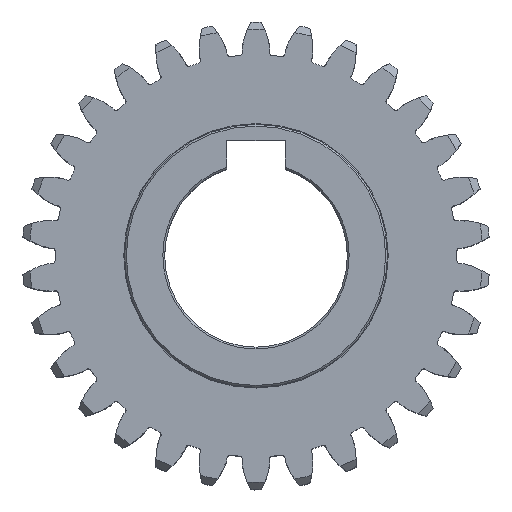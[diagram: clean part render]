
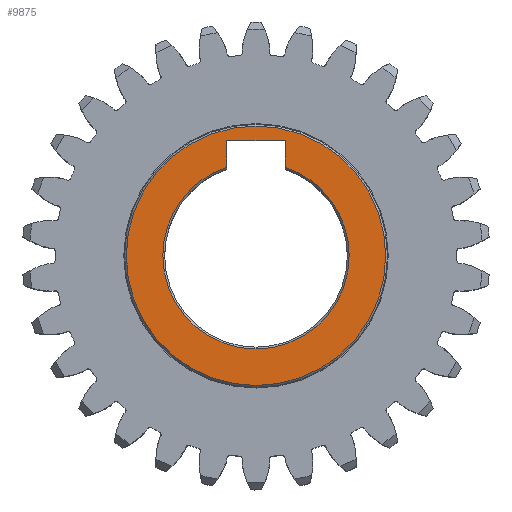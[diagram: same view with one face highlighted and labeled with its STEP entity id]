
A CAD part, top view. The second image highlights one B-rep face of the part: STEP entity #9875.
In plain terms, the highlighted planar face has unit normal (0, 0, 1).
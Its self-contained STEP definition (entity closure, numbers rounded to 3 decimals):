
#205 = VERTEX_POINT ( 'NONE', #1594 ) ;
#277 = AXIS2_PLACEMENT_3D ( 'NONE', #13567, #729, #6614 ) ;
#568 = CARTESIAN_POINT ( 'NONE',  ( 4., 9.2, 15. ) ) ;
#729 = DIRECTION ( 'NONE',  ( 0., 0., -1. ) ) ;
#865 = FACE_OUTER_BOUND ( 'NONE', #16452, .T. ) ;
#1410 = CARTESIAN_POINT ( 'NONE',  ( 12.75, 0., 15. ) ) ;
#1594 = CARTESIAN_POINT ( 'NONE',  ( 4., 12.106, 15. ) ) ;
#1815 = CARTESIAN_POINT ( 'NONE',  ( 0., 0., 15. ) ) ;
#1863 = EDGE_LOOP ( 'NONE', ( #7141, #8015, #3521, #9541, #15247, #16939 ) ) ;
#1932 = CARTESIAN_POINT ( 'NONE',  ( 0., 0., 15. ) ) ;
#2352 = DIRECTION ( 'NONE',  ( 0., 0., 1. ) ) ;
#2355 = DIRECTION ( 'NONE',  ( 0., 1., 0. ) ) ;
#2451 = CARTESIAN_POINT ( 'NONE',  ( -4., 9.2, 15. ) ) ;
#2458 = VECTOR ( 'NONE', #16412, 1000. ) ;
#2605 = CARTESIAN_POINT ( 'NONE',  ( -4., 15.8, 15. ) ) ;
#3521 = ORIENTED_EDGE ( 'NONE', *, *, #8604, .T. ) ;
#3584 = DIRECTION ( 'NONE',  ( 1., 0., 0. ) ) ;
#4006 = CIRCLE ( 'NONE', #17188, 12.75 ) ;
#4506 = AXIS2_PLACEMENT_3D ( 'NONE', #1932, #7642, #17690 ) ;
#4614 = CARTESIAN_POINT ( 'NONE',  ( 0., 0., 15. ) ) ;
#5068 = CIRCLE ( 'NONE', #277, 12.75 ) ;
#5140 = DIRECTION ( 'NONE',  ( 1., 0., 0. ) ) ;
#5152 = LINE ( 'NONE', #568, #2458 ) ;
#5311 = ORIENTED_EDGE ( 'NONE', *, *, #6176, .T. ) ;
#5557 = CARTESIAN_POINT ( 'NONE',  ( 0., 0., 15. ) ) ;
#6176 = EDGE_CURVE ( 'NONE', #12934, #8127, #6397, .T. ) ;
#6183 = ORIENTED_EDGE ( 'NONE', *, *, #11858, .T. ) ;
#6397 = CIRCLE ( 'NONE', #12701, 17.75 ) ;
#6614 = DIRECTION ( 'NONE',  ( 1., 0., 0. ) ) ;
#7062 = VERTEX_POINT ( 'NONE', #17201 ) ;
#7141 = ORIENTED_EDGE ( 'NONE', *, *, #13984, .T. ) ;
#7435 = DIRECTION ( 'NONE',  ( 1., 0., 0. ) ) ;
#7642 = DIRECTION ( 'NONE',  ( 0., 0., -1. ) ) ;
#7799 = DIRECTION ( 'NONE',  ( 0., 0., 1. ) ) ;
#7884 = CARTESIAN_POINT ( 'NONE',  ( 4., 15.8, 15. ) ) ;
#8015 = ORIENTED_EDGE ( 'NONE', *, *, #17141, .T. ) ;
#8109 = VERTEX_POINT ( 'NONE', #1410 ) ;
#8113 = VECTOR ( 'NONE', #3584, 1000. ) ;
#8127 = VERTEX_POINT ( 'NONE', #16979 ) ;
#8241 = CARTESIAN_POINT ( 'NONE',  ( 0., 0., 15. ) ) ;
#8604 = EDGE_CURVE ( 'NONE', #8109, #9948, #12308, .T. ) ;
#8922 = DIRECTION ( 'NONE',  ( 0., 0., -1. ) ) ;
#9495 = FACE_BOUND ( 'NONE', #1863, .T. ) ;
#9541 = ORIENTED_EDGE ( 'NONE', *, *, #18464, .T. ) ;
#9735 = EDGE_CURVE ( 'NONE', #17326, #9762, #13622, .T. ) ;
#9762 = VERTEX_POINT ( 'NONE', #17943 ) ;
#9875 = ADVANCED_FACE ( 'NONE', ( #865, #9495 ), #15210, .T. ) ;
#9948 = VERTEX_POINT ( 'NONE', #12601 ) ;
#10965 = EDGE_CURVE ( 'NONE', #7062, #17326, #18143, .T. ) ;
#11815 = VECTOR ( 'NONE', #2355, 1000. ) ;
#11835 = AXIS2_PLACEMENT_3D ( 'NONE', #8241, #18285, #5140 ) ;
#11858 = EDGE_CURVE ( 'NONE', #8127, #12934, #13019, .T. ) ;
#12308 = CIRCLE ( 'NONE', #4506, 12.75 ) ;
#12601 = CARTESIAN_POINT ( 'NONE',  ( -12.75, 0., 15. ) ) ;
#12701 = AXIS2_PLACEMENT_3D ( 'NONE', #1815, #7799, #7435 ) ;
#12934 = VERTEX_POINT ( 'NONE', #16217 ) ;
#13019 = CIRCLE ( 'NONE', #11835, 17.75 ) ;
#13567 = CARTESIAN_POINT ( 'NONE',  ( 0., 0., 15. ) ) ;
#13622 = LINE ( 'NONE', #7884, #8113 ) ;
#13984 = EDGE_CURVE ( 'NONE', #9762, #205, #5152, .T. ) ;
#14085 = DIRECTION ( 'NONE',  ( 1., 0., 0. ) ) ;
#14639 = DIRECTION ( 'NONE',  ( 1., 0., 0. ) ) ;
#15210 = PLANE ( 'NONE',  #15305 ) ;
#15247 = ORIENTED_EDGE ( 'NONE', *, *, #10965, .T. ) ;
#15305 = AXIS2_PLACEMENT_3D ( 'NONE', #5557, #2352, #14085 ) ;
#16217 = CARTESIAN_POINT ( 'NONE',  ( -17.75, 0., 15. ) ) ;
#16412 = DIRECTION ( 'NONE',  ( 0., -1., 0. ) ) ;
#16452 = EDGE_LOOP ( 'NONE', ( #5311, #6183 ) ) ;
#16939 = ORIENTED_EDGE ( 'NONE', *, *, #9735, .T. ) ;
#16979 = CARTESIAN_POINT ( 'NONE',  ( 17.75, 0., 15. ) ) ;
#17141 = EDGE_CURVE ( 'NONE', #205, #8109, #4006, .T. ) ;
#17188 = AXIS2_PLACEMENT_3D ( 'NONE', #4614, #8922, #14639 ) ;
#17201 = CARTESIAN_POINT ( 'NONE',  ( -4., 12.106, 15. ) ) ;
#17326 = VERTEX_POINT ( 'NONE', #2605 ) ;
#17690 = DIRECTION ( 'NONE',  ( 1., 0., 0. ) ) ;
#17943 = CARTESIAN_POINT ( 'NONE',  ( 4., 15.8, 15. ) ) ;
#18143 = LINE ( 'NONE', #2451, #11815 ) ;
#18285 = DIRECTION ( 'NONE',  ( 0., 0., 1. ) ) ;
#18464 = EDGE_CURVE ( 'NONE', #9948, #7062, #5068, .T. ) ;
